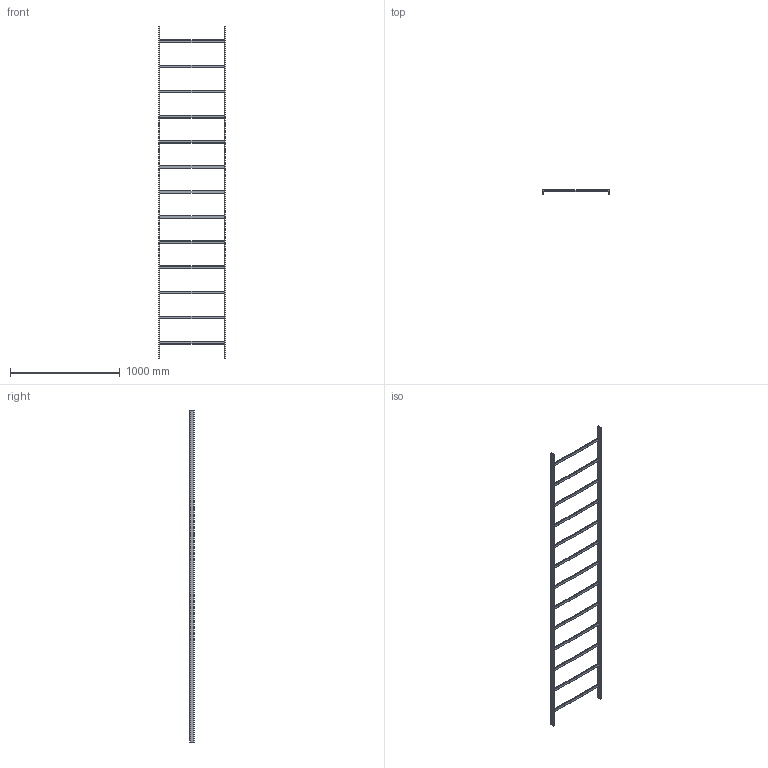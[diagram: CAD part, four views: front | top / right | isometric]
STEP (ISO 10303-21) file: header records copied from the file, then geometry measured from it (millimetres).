
FILE_DESCRIPTION (( 'STEP AP203' ), '1' );
FILE_NAME ('lob24w.STEP', '2015-05-21T19:44:06', ( '' ), ( '' ), 'SwSTEP 2.0', 'SolidWorks 2010', '' );
FILE_SCHEMA (( 'CONFIG_CONTROL_DESIGN' ));
Length unit declared in the file: inch
Products named in the file (1): lob24w
Bounding box: 609.6 x 38.1 x 3022.6 mm (x, y, z)
Volume: 1471776.3 mm3; surface area: 2121564 mm2
Topology: 1 solids, 14 shells, 230 faces, 646 edges, 420 vertices
Faces by surface type: plane 162, cylinder 64, bspline 4
Entity records: 7607 total; most frequent: CARTESIAN_POINT 1497, ORIENTED_EDGE 1292, DIRECTION 1228, EDGE_CURVE 646, VECTOR 462, LINE 462, VERTEX_POINT 420, AXIS2_PLACEMENT_3D 383
